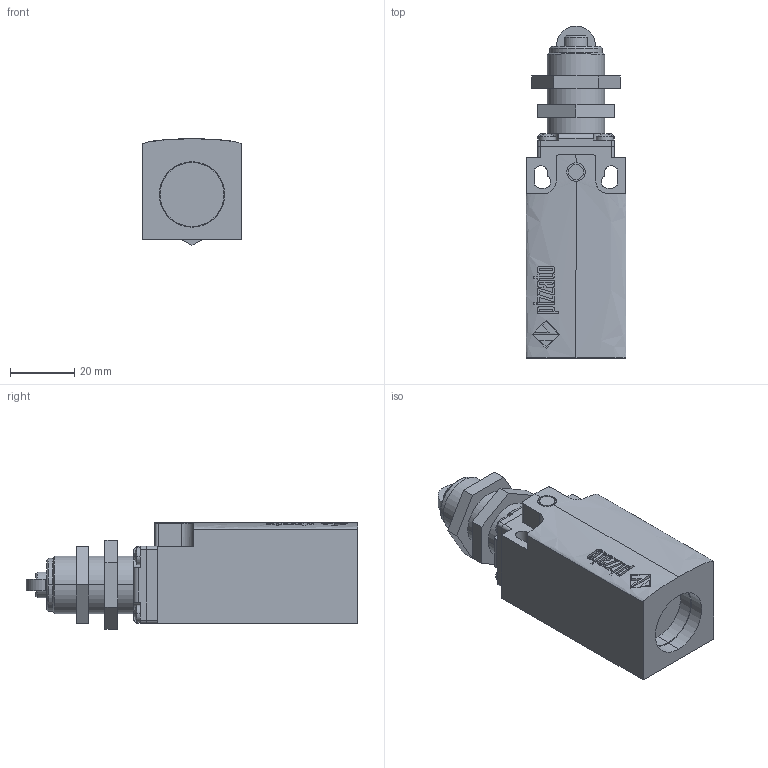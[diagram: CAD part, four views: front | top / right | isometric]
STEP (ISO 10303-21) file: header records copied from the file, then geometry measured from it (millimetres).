
FILE_DESCRIPTION (( 'STEP AP203' ), '1' );
FILE_NAME ('ZF_STEP_FM_x13.STEP', '2024-01-22T12:46:39', ( '' ), ( '' ), 'SwSTEP 2.0', 'SolidWorks 2020', '' );
FILE_SCHEMA (( 'CONFIG_CONTROL_DESIGN' ));
Length unit declared in the file: millimetre
Products named in the file (7): Pizzato_Dado_2007_2007; Pizzato_Supporto_TE13; Pizzato_Custodia_FM_3dweb; ZF_STEP_FM_x13; ZF_STEP_VF_TE13; Pizzato_Pistoncino_TE13
Assembly tree (7 placements, depth 3):
  ZF_STEP_FM_x13
    Pizzato_Custodia_FM_3dweb
      Pizzato_Custodia_FM_3dweb
    ZF_STEP_VF_TE13
      Pizzato_Supporto_TE13
      Pizzato_Dado_2007_2007  x2
      Pizzato_Pistoncino_TE13
Bounding box: 31.2 x 103.6 x 33.26 mm (x, y, z)
Volume: 67878 mm3; surface area: 18365.1 mm2
Topology: 5 solids, 5 shells, 291 faces, 758 edges, 502 vertices
Faces by surface type: plane 172, cylinder 60, bspline 45, sphere 8, cone 6
Entity records: 9921 total; most frequent: CARTESIAN_POINT 2597, ORIENTED_EDGE 1468, DIRECTION 1188, EDGE_CURVE 734, VERTEX_POINT 486, LINE 454, VECTOR 454, AXIS2_PLACEMENT_3D 367
